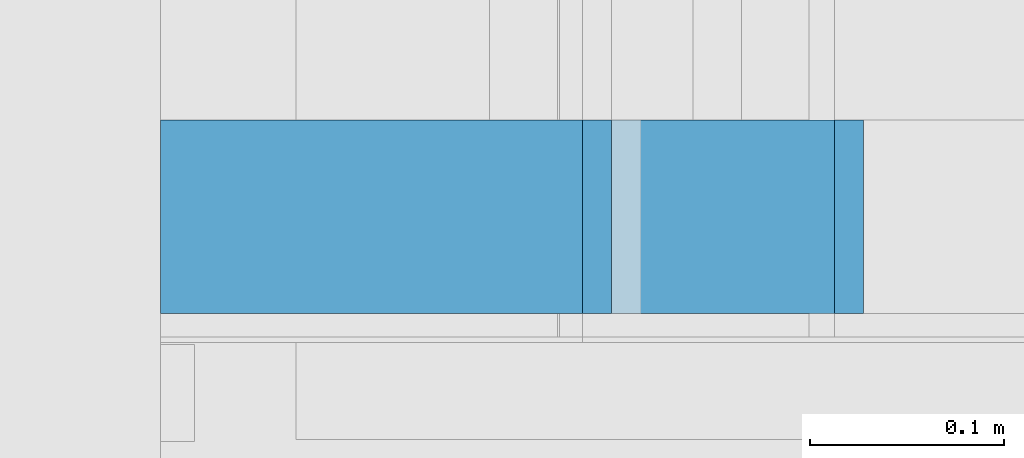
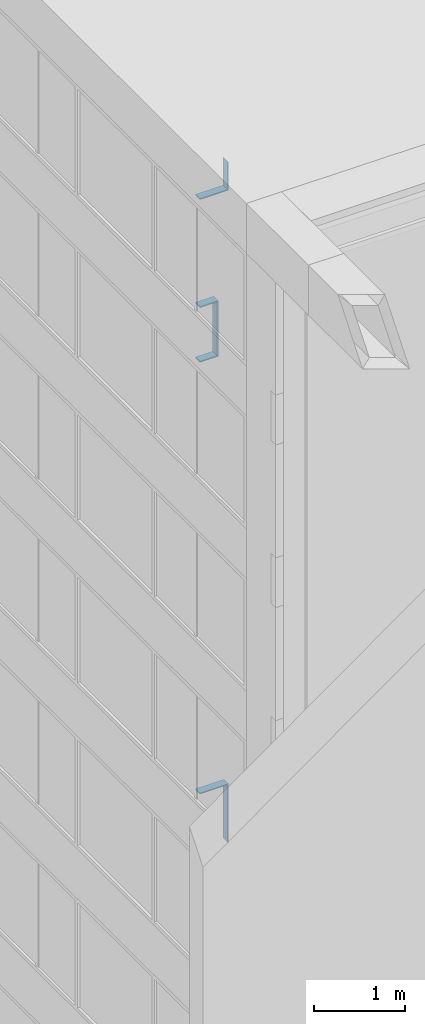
# One storey, part 171 of 583: 7 building element parts, 7 elements without a shape of their own.
"""IFC2X3 building model written with IfcOpenShell, lengths in metres."""

from ifc_helpers import new_model, entity, si_unit, converted_unit, derived_unit, money_unit, direction, frame, origin_with_axes, place, context, subcontext, project, spatial, polyline, outline, extrude, material, type_object, element, aggregate, save


model = new_model("IFC2X3")

# Units and contexts
model_context = context("Model", 3, precision=1e-05, world=origin_with_axes(), true_north=direction((0.0, 1.0)))
body_context = subcontext(model_context, "Body", "Model", "MODEL_VIEW", scale=1.0)
ifc_project = project(units=[si_unit("LENGTHUNIT", "METRE"), si_unit("AREAUNIT", "SQUARE_METRE"), si_unit("VOLUMEUNIT", "CUBIC_METRE"), si_unit("ABSORBEDDOSEUNIT", "GRAY"), si_unit("AMOUNTOFSUBSTANCEUNIT", "MOLE"), si_unit("DOSEEQUIVALENTUNIT", "SIEVERT"), si_unit("ELECTRICCAPACITANCEUNIT", "FARAD"), si_unit("ELECTRICCHARGEUNIT", "COULOMB"), si_unit("ELECTRICCONDUCTANCEUNIT", "SIEMENS"), si_unit("ELECTRICCURRENTUNIT", "AMPERE"), si_unit("ELECTRICRESISTANCEUNIT", "OHM"), si_unit("ELECTRICVOLTAGEUNIT", "VOLT"), si_unit("ENERGYUNIT", "JOULE"), si_unit("FORCEUNIT", "NEWTON"), si_unit("FREQUENCYUNIT", "HERTZ"), si_unit("ILLUMINANCEUNIT", "LUX"), si_unit("INDUCTANCEUNIT", "HENRY"), si_unit("LUMINOUSFLUXUNIT", "LUMEN"), si_unit("LUMINOUSINTENSITYUNIT", "CANDELA"), si_unit("MAGNETICFLUXDENSITYUNIT", "TESLA"), si_unit("MAGNETICFLUXUNIT", "WEBER"), si_unit("MASSUNIT", "GRAM"), converted_unit("PLANEANGLEUNIT", "degree", entity("IfcReal", 0.0174532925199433), si_unit("PLANEANGLEUNIT", "RADIAN"), dimensions=[0, 0, 0, 0, 0, 0, 0]), si_unit("POWERUNIT", "WATT"), si_unit("PRESSUREUNIT", "PASCAL"), si_unit("RADIOACTIVITYUNIT", "BECQUEREL"), si_unit("SOLIDANGLEUNIT", "STERADIAN"), si_unit("THERMODYNAMICTEMPERATUREUNIT", "KELVIN"), si_unit("TIMEUNIT", "SECOND"), derived_unit("ACCELERATIONUNIT", [(si_unit("LENGTHUNIT", "METRE"), 1), (si_unit("TIMEUNIT", "SECOND"), -2)]), derived_unit("ANGULARVELOCITYUNIT", [(converted_unit("PLANEANGLEUNIT", "degree", entity("IfcReal", 0.0174532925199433), si_unit("PLANEANGLEUNIT", "RADIAN"), dimensions=[0, 0, 0, 0, 0, 0, 0]), 1), (si_unit("TIMEUNIT", "SECOND"), -1)]), derived_unit("CURVATUREUNIT", [(converted_unit("PLANEANGLEUNIT", "degree", entity("IfcReal", 0.0174532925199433), si_unit("PLANEANGLEUNIT", "RADIAN"), dimensions=[0, 0, 0, 0, 0, 0, 0]), 1), (si_unit("LENGTHUNIT", "METRE"), -1)]), derived_unit("DYNAMICVISCOSITYUNIT", [(si_unit("PRESSUREUNIT", "PASCAL"), 1), (si_unit("TIMEUNIT", "SECOND"), 1)]), derived_unit("HEATFLUXDENSITYUNIT", [(si_unit("POWERUNIT", "WATT"), 1), (si_unit("LENGTHUNIT", "METRE"), -2)]), derived_unit("HEATINGVALUEUNIT", [(si_unit("ENERGYUNIT", "JOULE"), 1), (si_unit("MASSUNIT", "GRAM"), -1)]), derived_unit("INTEGERCOUNTRATEUNIT", [(si_unit("TIMEUNIT", "SECOND"), -1)]), derived_unit("IONCONCENTRATIONUNIT", [(si_unit("MASSUNIT", "GRAM"), 1), (si_unit("VOLUMEUNIT", "CUBIC_METRE"), -1)]), derived_unit("ISOTHERMALMOISTURECAPACITYUNIT", [(si_unit("VOLUMEUNIT", "CUBIC_METRE"), 1), (si_unit("MASSUNIT", "GRAM"), -1)]), derived_unit("KINEMATICVISCOSITYUNIT", [(si_unit("AREAUNIT", "SQUARE_METRE"), 1), (si_unit("TIMEUNIT", "SECOND"), -1)]), derived_unit("LINEARFORCEUNIT", [(si_unit("FORCEUNIT", "NEWTON"), 1), (si_unit("LENGTHUNIT", "METRE"), -1)]), derived_unit("LINEARMOMENTUNIT", [(si_unit("FORCEUNIT", "NEWTON"), 1), (si_unit("LENGTHUNIT", "METRE"), -1)]), derived_unit("LINEARSTIFFNESSUNIT", [(si_unit("FORCEUNIT", "NEWTON"), 1), (si_unit("LENGTHUNIT", "METRE"), -1)]), derived_unit("LINEARVELOCITYUNIT", [(si_unit("LENGTHUNIT", "METRE"), 1), (si_unit("TIMEUNIT", "SECOND"), -1)]), derived_unit("LUMINOUSINTENSITYDISTRIBUTIONUNIT", [(si_unit("LUMINOUSINTENSITYUNIT", "CANDELA"), 1), (si_unit("LUMINOUSFLUXUNIT", "LUMEN"), -1)]), derived_unit("MASSDENSITYUNIT", [(si_unit("MASSUNIT", "GRAM"), 1), (si_unit("VOLUMEUNIT", "CUBIC_METRE"), -1)]), derived_unit("MASSFLOWRATEUNIT", [(si_unit("MASSUNIT", "GRAM"), 1), (si_unit("TIMEUNIT", "SECOND"), -1)]), derived_unit("MASSPERLENGTHUNIT", [(si_unit("MASSUNIT", "GRAM"), 1), (si_unit("LENGTHUNIT", "METRE"), -1)]), derived_unit("MODULUSOFELASTICITYUNIT", [(si_unit("FORCEUNIT", "NEWTON"), 1), (si_unit("AREAUNIT", "SQUARE_METRE"), -1)]), derived_unit("MODULUSOFLINEARSUBGRADEREACTIONUNIT", [(si_unit("FORCEUNIT", "NEWTON"), 1), (si_unit("LENGTHUNIT", "METRE"), -2)]), derived_unit("MODULUSOFROTATIONALSUBGRADEREACTIONUNIT", [(si_unit("FORCEUNIT", "NEWTON"), 1), (si_unit("LENGTHUNIT", "METRE"), 1)]), derived_unit("MODULUSOFSUBGRADEREACTIONUNIT", [(si_unit("FORCEUNIT", "NEWTON"), 1), (si_unit("VOLUMEUNIT", "CUBIC_METRE"), -1)]), derived_unit("MOISTUREDIFFUSIVITYUNIT", [(si_unit("VOLUMEUNIT", "CUBIC_METRE"), 1), (si_unit("TIMEUNIT", "SECOND"), -1)]), derived_unit("MOLECULARWEIGHTUNIT", [(si_unit("MASSUNIT", "GRAM"), 1), (si_unit("AMOUNTOFSUBSTANCEUNIT", "MOLE"), -1)]), derived_unit("PLANARFORCEUNIT", [(si_unit("FORCEUNIT", "NEWTON"), 1), (si_unit("LENGTHUNIT", "METRE"), -2)]), derived_unit("ROTATIONALFREQUENCYUNIT", [(si_unit("TIMEUNIT", "SECOND"), -1)]), derived_unit("ROTATIONALMASSUNIT", [(si_unit("MASSUNIT", "GRAM"), 1), (si_unit("LENGTHUNIT", "METRE"), 2)]), derived_unit("ROTATIONALSTIFFNESSUNIT", [(si_unit("FORCEUNIT", "NEWTON"), 1), (si_unit("LENGTHUNIT", "METRE"), 1), (converted_unit("PLANEANGLEUNIT", "degree", entity("IfcReal", 0.0174532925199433), si_unit("PLANEANGLEUNIT", "RADIAN"), dimensions=[0, 0, 0, 0, 0, 0, 0]), -1)]), derived_unit("SECTIONAREAINTEGRALUNIT", [(si_unit("LENGTHUNIT", "METRE"), 5)]), derived_unit("SECTIONMODULUSUNIT", [(si_unit("LENGTHUNIT", "METRE"), 3)]), derived_unit("SHEARMODULUSUNIT", [(si_unit("FORCEUNIT", "NEWTON"), 1), (si_unit("AREAUNIT", "SQUARE_METRE"), -1)]), derived_unit("SOUNDPOWERUNIT", [(si_unit("ENERGYUNIT", "JOULE"), 1), (si_unit("TIMEUNIT", "SECOND"), -1)]), derived_unit("SPECIFICHEATCAPACITYUNIT", [(si_unit("FORCEUNIT", "NEWTON"), 1), (si_unit("MASSUNIT", "GRAM"), -1), (si_unit("THERMODYNAMICTEMPERATUREUNIT", "KELVIN"), -1)]), derived_unit("TEMPERATUREGRADIENTUNIT", [(si_unit("THERMODYNAMICTEMPERATUREUNIT", "KELVIN"), 1), (si_unit("LENGTHUNIT", "METRE"), -1)]), derived_unit("THERMALADMITTANCEUNIT", [(si_unit("POWERUNIT", "WATT"), 1), (si_unit("AREAUNIT", "SQUARE_METRE"), -1), (si_unit("THERMODYNAMICTEMPERATUREUNIT", "KELVIN"), -1)]), derived_unit("THERMALCONDUCTANCEUNIT", [(si_unit("POWERUNIT", "WATT"), 1), (si_unit("LENGTHUNIT", "METRE"), -1), (si_unit("THERMODYNAMICTEMPERATUREUNIT", "KELVIN"), -1)]), derived_unit("THERMALEXPANSIONCOEFFICIENTUNIT", [(si_unit("THERMODYNAMICTEMPERATUREUNIT", "KELVIN"), -1)]), derived_unit("THERMALRESISTANCEUNIT", [(si_unit("AREAUNIT", "SQUARE_METRE"), 1), (si_unit("POWERUNIT", "WATT"), -1)]), derived_unit("THERMALTRANSMITTANCEUNIT", [(si_unit("POWERUNIT", "WATT"), 1), (si_unit("AREAUNIT", "SQUARE_METRE"), -1), (si_unit("THERMODYNAMICTEMPERATUREUNIT", "KELVIN"), -1)]), derived_unit("TORQUEUNIT", [(si_unit("FORCEUNIT", "NEWTON"), 1), (si_unit("LENGTHUNIT", "METRE"), 1)]), derived_unit("VAPORPERMEABILITYUNIT", [(si_unit("MASSUNIT", "GRAM"), 1), (si_unit("TIMEUNIT", "SECOND"), -1)]), derived_unit("VOLUMETRICFLOWRATEUNIT", [(si_unit("VOLUMEUNIT", "CUBIC_METRE"), 1), (si_unit("TIMEUNIT", "SECOND"), -1)]), derived_unit("WARPINGCONSTANTUNIT", [(si_unit("LENGTHUNIT", "METRE"), 6)]), derived_unit("WARPINGMOMENTUNIT", [(si_unit("FORCEUNIT", "NEWTON"), 1), (si_unit("LENGTHUNIT", "METRE"), 2)]), money_unit("GBP")], contexts=[model_context])

# Site, building, storey
site_placement = place(None, origin_with_axes())
site = spatial("IfcSite", under=ifc_project, at=site_placement, Name="Site", CompositionType="ELEMENT")
building_placement = place(site_placement, origin_with_axes())
building = spatial("IfcBuilding", under=site, at=building_placement, Name="Building01", CompositionType="ELEMENT")
storey_placement = place(building_placement, frame((0.0, 0.0, 20.78), z_axis=(0.0, 0.0, 1.0), x_axis=(1.0, 0.0, 0.0)))
storey = spatial("IfcBuildingStorey", under=building, at=storey_placement, Name="RL", CompositionType="ELEMENT", Elevation=20.78)

# Wall, building element part
wall_type = type_object("IfcWallType", Name="SHE_A-Walls_Type06d_ExternalWallInsulation_48mm", PredefinedType="NOTDEFINED")
wall_1_placement = place(storey_placement, frame((0.4, 5.15, -3.23), z_axis=(0.0, 1.0, 0.0), x_axis=(0.0, 0.0, 1.0)))
wall_1 = element("IfcWall", 1, at=wall_1_placement, inside=storey, type_object=wall_type, Name="6D", ObjectType="SHE_A-Walls_Type06d_ExternalWallInsulation_48mm")
ifc_material = material(Name="A_BSUK_Walls_Timber")
building_element_part_1_placement = place(wall_1_placement, origin_with_axes())
building_element_part_1 = element("IfcBuildingElementPart", 2, at=building_element_part_1_placement, material=ifc_material, Name="2", context=body_context, shape_type="SweptSolid", body=[
    extrude(outline(polyline([(0.733, 0.063), (-0.063, 0.063), (-0.048, 0.048), (0.718, 0.048), (0.733, 0.063)])), frame((0.0, 0.0, 0.015), z_axis=(0.0, 0.0, 1.0), x_axis=(1.0, 0.0, 0.0)), (0.0, 0.0, 1.0), 0.1),
])
aggregate(wall_1, [building_element_part_1])

wall_2_placement = place(storey_placement, frame((0.4, 5.15, -2.56), z_axis=(0.0, 1.0, 0.0), x_axis=(-1.0, 0.0, 0.0)))
wall_2 = element("IfcWall", 3, at=wall_2_placement, inside=storey, type_object=wall_type, Name="6D", ObjectType="SHE_A-Walls_Type06d_ExternalWallInsulation_48mm")
building_element_part_2_placement = place(wall_2_placement, origin_with_axes())
building_element_part_2 = element("IfcBuildingElementPart", 4, at=building_element_part_2_placement, material=ifc_material, Name="2", context=body_context, shape_type="SweptSolid", body=[
    extrude(outline(polyline([(-0.063, 0.063), (-0.048, 0.048), (0.3, 0.048), (0.3, 0.063), (-0.063, 0.063)])), frame((0.0, 0.0, 0.015), z_axis=(0.0, 0.0, 1.0), x_axis=(1.0, 0.0, 0.0)), (0.0, 0.0, 1.0), 0.1),
])
aggregate(wall_2, [building_element_part_2])

wall_3_placement = place(storey_placement, frame((0.1, 5.15, 3.363), z_axis=(0.0, 1.0, 0.0), x_axis=(1.0, 0.0, 0.0)))
wall_3 = element("IfcWall", 5, at=wall_3_placement, inside=storey, type_object=wall_type, Name="6D", ObjectType="SHE_A-Walls_Type06d_ExternalWallInsulation_48mm")
building_element_part_3_placement = place(wall_3_placement, origin_with_axes())
building_element_part_3 = element("IfcBuildingElementPart", 6, at=building_element_part_3_placement, material=ifc_material, Name="2", context=body_context, shape_type="SweptSolid", body=[
    extrude(outline(polyline([(0.233, 0.063), (0.0, 0.063), (0.0, 0.048), (0.218, 0.048), (0.233, 0.063)])), frame((0.0, 0.0, 0.015), z_axis=(0.0, 0.0, 1.0), x_axis=(1.0, 0.0, 0.0)), (0.0, 0.0, 1.0), 0.1),
])
aggregate(wall_3, [building_element_part_3])

wall_4_placement = place(storey_placement, frame((0.27, 5.15, 3.363), z_axis=(0.0, 1.0, 0.0), x_axis=(0.0, 0.0, 1.0)))
wall_4 = element("IfcWall", 7, at=wall_4_placement, inside=storey, type_object=wall_type, Name="6D", ObjectType="SHE_A-Walls_Type06d_ExternalWallInsulation_48mm")
building_element_part_4_placement = place(wall_4_placement, origin_with_axes())
building_element_part_4 = element("IfcBuildingElementPart", 8, at=building_element_part_4_placement, material=ifc_material, Name="2", context=body_context, shape_type="SweptSolid", body=[
    extrude(outline(polyline([(0.687, 0.063), (-0.063, 0.063), (-0.048, 0.048), (0.672, 0.048), (0.687, 0.063)])), frame((0.0, 0.0, 0.015), z_axis=(0.0, 0.0, 1.0), x_axis=(1.0, 0.0, 0.0)), (0.0, 0.0, 1.0), 0.1),
])
aggregate(wall_4, [building_element_part_4])

wall_5_placement = place(storey_placement, frame((0.27, 5.15, 3.987), z_axis=(0.0, 1.0, 0.0), x_axis=(-1.0, 0.0, 0.0)))
wall_5 = element("IfcWall", 9, at=wall_5_placement, inside=storey, type_object=wall_type, Name="6D", ObjectType="SHE_A-Walls_Type06d_ExternalWallInsulation_48mm")
building_element_part_5_placement = place(wall_5_placement, origin_with_axes())
building_element_part_5 = element("IfcBuildingElementPart", 10, at=building_element_part_5_placement, material=ifc_material, Name="2", context=body_context, shape_type="SweptSolid", body=[
    extrude(outline(polyline([(-0.063, 0.063), (-0.048, 0.048), (0.17, 0.048), (0.17, 0.063), (-0.063, 0.063)])), frame((0.0, 0.0, 0.015), z_axis=(0.0, 0.0, 1.0), x_axis=(1.0, 0.0, 0.0)), (0.0, 0.0, 1.0), 0.1),
])
aggregate(wall_5, [building_element_part_5])

wall_6_placement = place(storey_placement, frame((0.1, 5.15, 5.553), z_axis=(0.0, 1.0, 0.0), x_axis=(1.0, 0.0, 0.0)))
wall_6 = element("IfcWall", 11, at=wall_6_placement, inside=storey, type_object=wall_type, Name="6D", ObjectType="SHE_A-Walls_Type06d_ExternalWallInsulation_48mm")
building_element_part_6_placement = place(wall_6_placement, origin_with_axes())
building_element_part_6 = element("IfcBuildingElementPart", 12, at=building_element_part_6_placement, material=ifc_material, Name="2", context=body_context, shape_type="SweptSolid", body=[
    extrude(outline(polyline([(0.363, 0.063), (0.0, 0.063), (0.0, 0.048), (0.348, 0.048), (0.363, 0.063)])), frame((0.0, 0.0, 0.015), z_axis=(0.0, 0.0, 1.0), x_axis=(1.0, 0.0, 0.0)), (0.0, 0.0, 1.0), 0.1),
])
aggregate(wall_6, [building_element_part_6])

wall_7_placement = place(storey_placement, frame((0.4, 5.15, 5.553), z_axis=(0.0, 1.0, 0.0), x_axis=(0.0, 0.0, 1.0)))
wall_7 = element("IfcWall", 13, at=wall_7_placement, inside=storey, type_object=wall_type, Name="6D", ObjectType="SHE_A-Walls_Type06d_ExternalWallInsulation_48mm")
building_element_part_7_placement = place(wall_7_placement, origin_with_axes())
building_element_part_7 = element("IfcBuildingElementPart", 14, at=building_element_part_7_placement, material=ifc_material, Name="2", context=body_context, shape_type="SweptSolid", body=[
    extrude(outline(polyline([(0.314, 0.063), (-0.063, 0.063), (-0.048, 0.048), (0.329, 0.048), (0.314, 0.063)])), frame((0.0, 0.0, 0.015), z_axis=(0.0, 0.0, 1.0), x_axis=(1.0, 0.0, 0.0)), (0.0, 0.0, 1.0), 0.1),
])
aggregate(wall_7, [building_element_part_7])

save(model, "model.ifc")
